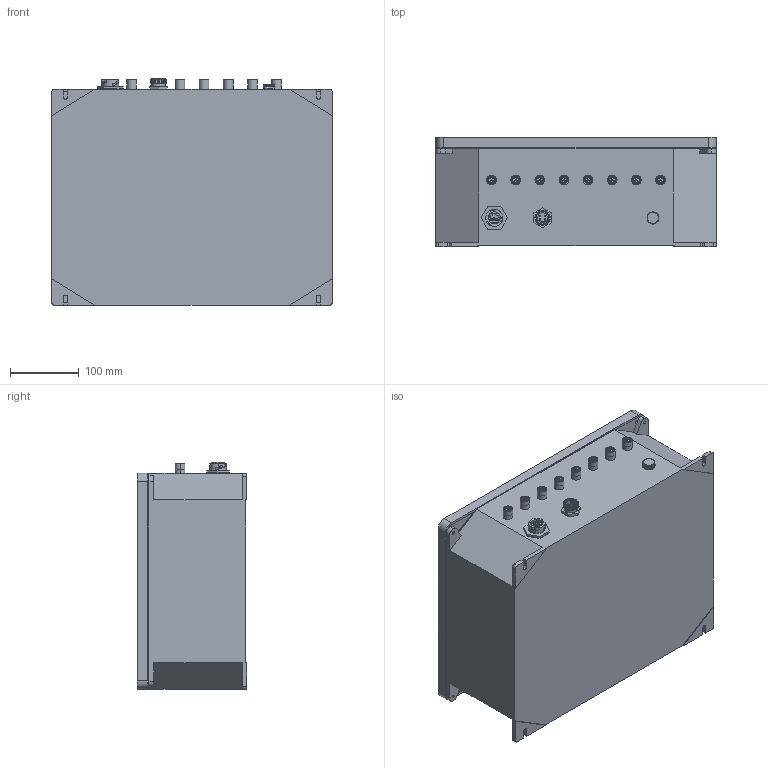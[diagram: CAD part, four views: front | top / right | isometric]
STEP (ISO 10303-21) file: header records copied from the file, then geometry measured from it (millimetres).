
FILE_DESCRIPTION (( 'STEP AP203' ), '1' );
FILE_NAME ('T-Rex Pro.STEP', '2019-03-15T07:03:36', ( '' ), ( '' ), 'SwSTEP 2.0', 'SolidWorks 2018', '' );
FILE_SCHEMA (( 'CONFIG_CONTROL_DESIGN' ));
Length unit declared in the file: millimetre
Products named in the file (15): MEC418.01.00 Schermo; Base cassetta 8000.6287.0 per T-Rex Pro Tolosa; 847000001; BOARD DDS855; connettore simulato; Alimentatore; Coperchio cassetta 8000.6287.0 per T-Rex Pro Tolosa; Valvola osmotica resistente UV; Schedina Amazon; T-Rex Pro; MI.VT5 Vite croce testa svasata_PreviewCfg; Piastra cassetta; MEC418.02.00 Blocco connettori; Connettore Brad Harrison 4poli M da pannello; Schedina Buff
Assembly tree (34 placements, depth 2):
  T-Rex Pro
    Base cassetta 8000.6287.0 per T-Rex Pro Tolosa
    Connettore Brad Harrison 4poli M da pannello
    Coperchio cassetta 8000.6287.0 per T-Rex Pro Tolosa
    MI.VT5 Vite croce testa svasata_PreviewCfg  x4
    847000001
    Valvola osmotica resistente UV
    Piastra cassetta
    BOARD DDS855
    MEC418.01.00 Schermo
    Alimentatore
    connettore simulato  x8
    Schedina Buff  x8
    Schedina Amazon
    MEC418.02.00 Blocco connettori  x4
Bounding box: 407 x 158.5 x 328.24 mm (x, y, z)
Volume: 2128338.1 mm3; surface area: 1519117.1 mm2
Topology: 36 solids, 37 shells, 2843 faces, 7851 edges, 5171 vertices
Faces by surface type: plane 1628, cylinder 1165, cone 34, torus 12, bspline 4
Entity records: 85673 total; most frequent: CARTESIAN_POINT 17222, ORIENTED_EDGE 13926, DIRECTION 13554, EDGE_CURVE 6963, VECTOR 4604, LINE 4604, VERTEX_POINT 4591, AXIS2_PLACEMENT_3D 4475
